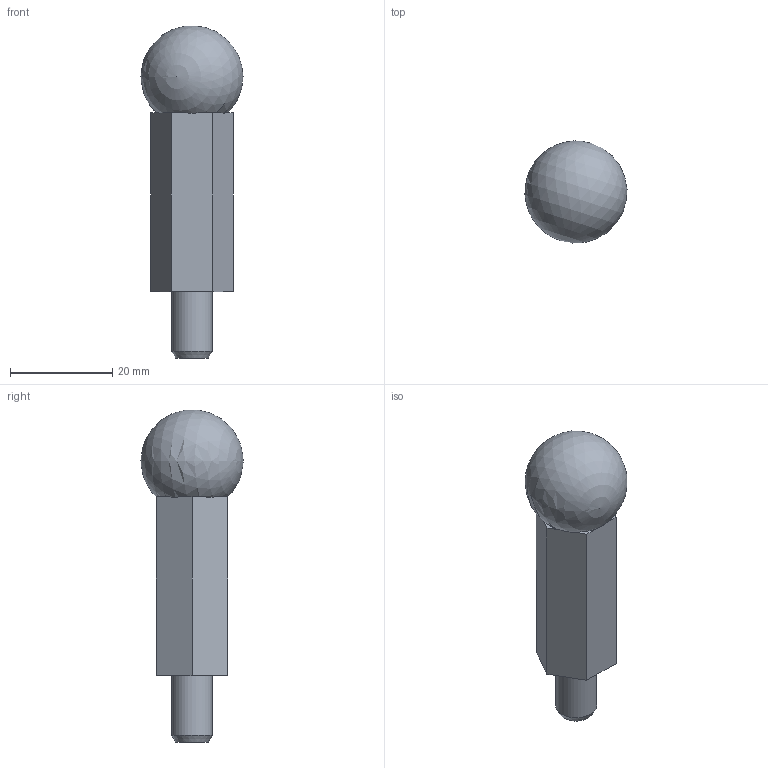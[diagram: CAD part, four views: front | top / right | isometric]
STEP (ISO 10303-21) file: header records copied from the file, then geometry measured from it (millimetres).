
FILE_DESCRIPTION(/* description */ (''),/* implementation_level */ '2;1');
FILE_NAME(/* name */ 'C:\Local Work Area\Progetti\AP\CALIBRI\20.XX 21.XX 22.XX SFERE\21.01.stp',/* time_stamp */ '2020-10-21T16:21:14+02:00',/* author */ ('CAD5'),/* organization */ (''),/* preprocessor_version */ 'ST-DEVELOPER v17.2',/* originating_system */ 'Autodesk Inventor 2019',/* authorisation */ '');
FILE_SCHEMA (('AUTOMOTIVE_DESIGN { 1 0 10303 214 3 1 1 }'));
Length unit declared in the file: millimetre
Products named in the file (4): 21.01; 21.01-A; 22.01-A; UNI 5923 M8 x 25
Assembly tree (4 placements, depth 2):
  21.01
    21.01-A
    22.01-A
    UNI 5923 M8 x 25  x2
Bounding box: 19.98 x 19.96 x 64.93 mm (x, y, z)
Volume: 10289.9 mm3; surface area: 5761 mm2
Topology: 4 solids, 4 shells, 43 faces, 112 edges, 75 vertices
Faces by surface type: plane 30, cone 8, cylinder 4, sphere 1
Full cylindrical faces by diameter (mm): 6.647 x1, 7.9 x1, 8 x2
Entity records: 1103 total; most frequent: CARTESIAN_POINT 200, DIRECTION 162, ORIENTED_EDGE 156, EDGE_CURVE 78, AXIS2_PLACEMENT_3D 59, VERTEX_POINT 55, LINE 44, VECTOR 44
